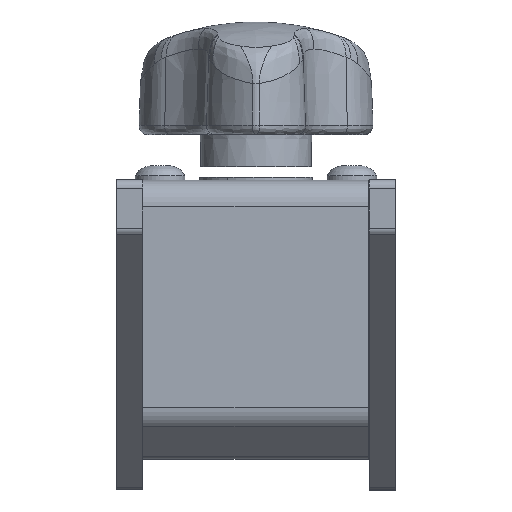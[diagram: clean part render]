
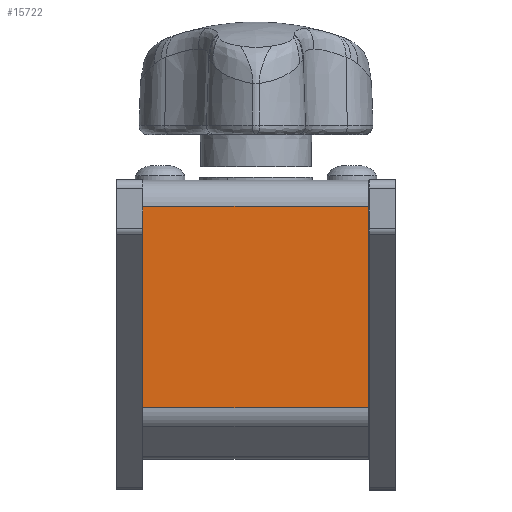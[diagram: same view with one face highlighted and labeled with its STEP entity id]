
A CAD part, top view. The second image highlights one B-rep face of the part: STEP entity #15722.
In plain terms, the highlighted planar face has unit normal (0, 0, 1).
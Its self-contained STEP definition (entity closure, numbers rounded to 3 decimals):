
#240 = CARTESIAN_POINT ( 'NONE',  ( 12.9, 35.5, 36.75 ) ) ;
#241 = DIRECTION ( 'NONE',  ( 0., 1., 0. ) ) ;
#249 = CARTESIAN_POINT ( 'NONE',  ( -13., 32.5, 36.75 ) ) ;
#250 = DIRECTION ( 'NONE',  ( -1., 0., 0. ) ) ;
#251 = CARTESIAN_POINT ( 'NONE',  ( 12.9, 9.377, 36.75 ) ) ;
#259 = DIRECTION ( 'NONE',  ( 1., 0., 0. ) ) ;
#260 = CARTESIAN_POINT ( 'NONE',  ( -13., 35.5, 36.75 ) ) ;
#261 = DIRECTION ( 'NONE',  ( 0., 1., 0. ) ) ;
#1852 = CARTESIAN_POINT ( 'NONE',  ( 12.9, 9.377, 36.75 ) ) ;
#1892 = CARTESIAN_POINT ( 'NONE',  ( -13., 32.5, 36.75 ) ) ;
#1964 = CARTESIAN_POINT ( 'NONE',  ( 12.9, 32.5, 36.75 ) ) ;
#2733 = VERTEX_POINT ( 'NONE', #1852 ) ;
#2774 = VERTEX_POINT ( 'NONE', #1892 ) ;
#2846 = VERTEX_POINT ( 'NONE', #1964 ) ;
#3316 = VERTEX_POINT ( 'NONE', #14242 ) ;
#3920 = AXIS2_PLACEMENT_3D ( 'NONE', #10395, #10404, #10405 ) ;
#6906 = VECTOR ( 'NONE', #241, 1000. ) ;
#6920 = LINE ( 'NONE', #240, #6906 ) ;
#6932 = VECTOR ( 'NONE', #250, 1000. ) ;
#6939 = LINE ( 'NONE', #249, #6932 ) ;
#6958 = VECTOR ( 'NONE', #259, 1000. ) ;
#6967 = LINE ( 'NONE', #251, #6958 ) ;
#6971 = LINE ( 'NONE', #260, #6973 ) ;
#6973 = VECTOR ( 'NONE', #261, 1000. ) ;
#7324 = FACE_OUTER_BOUND ( 'NONE', #15153, .T. ) ;
#10395 = CARTESIAN_POINT ( 'NONE',  ( -13., 35.5, 36.75 ) ) ;
#10397 = PLANE ( 'NONE',  #3920 ) ;
#10404 = DIRECTION ( 'NONE',  ( 0., 0., -1. ) ) ;
#10405 = DIRECTION ( 'NONE',  ( 0., -1., 0. ) ) ;
#12525 = ORIENTED_EDGE ( 'NONE', *, *, #16337, .T. ) ;
#12526 = ORIENTED_EDGE ( 'NONE', *, *, #16333, .T. ) ;
#12527 = ORIENTED_EDGE ( 'NONE', *, *, #16341, .T. ) ;
#12528 = ORIENTED_EDGE ( 'NONE', *, *, #16342, .F. ) ;
#14242 = CARTESIAN_POINT ( 'NONE',  ( -13., 9.377, 36.75 ) ) ;
#15153 = EDGE_LOOP ( 'NONE', ( #12528, #12527, #12526, #12525 ) ) ;
#15722 = ADVANCED_FACE ( 'NONE', ( #7324 ), #10397, .F. ) ;
#16333 = EDGE_CURVE ( 'NONE', #2733, #2846, #6920, .T. ) ;
#16337 = EDGE_CURVE ( 'NONE', #2846, #2774, #6939, .T. ) ;
#16341 = EDGE_CURVE ( 'NONE', #3316, #2733, #6967, .T. ) ;
#16342 = EDGE_CURVE ( 'NONE', #3316, #2774, #6971, .T. ) ;
